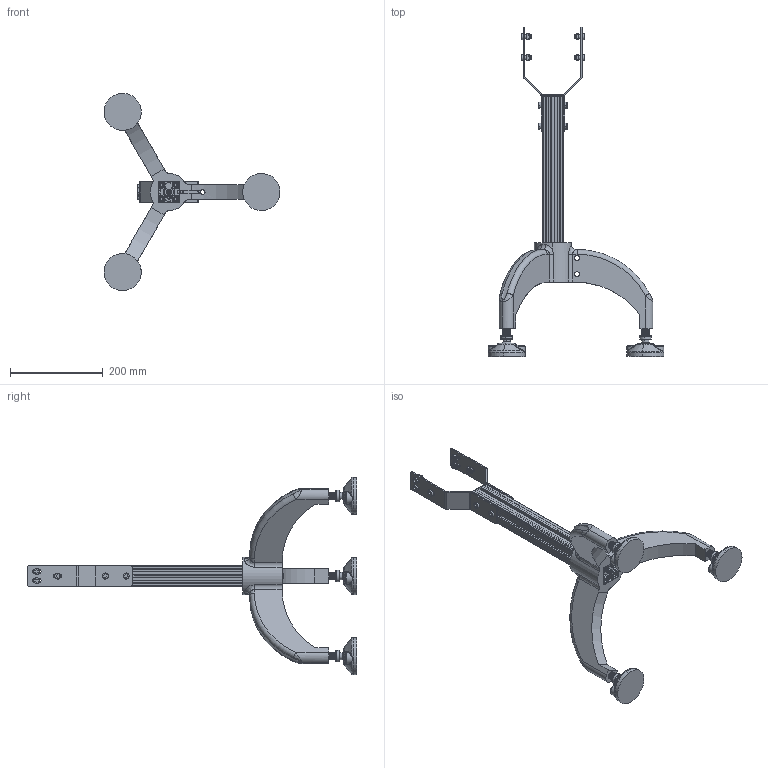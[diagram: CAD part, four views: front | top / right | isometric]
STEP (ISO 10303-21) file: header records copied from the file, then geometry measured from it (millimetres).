
FILE_DESCRIPTION (( 'STEP AP203' ), '1' );
FILE_NAME ('2000.450.KP.STEP', '2018-03-13T10:17:19', ( '' ), ( '' ), 'SwSTEP 2.0', 'SolidWorks 2016', '' );
FILE_SCHEMA (( 'CONFIG_CONTROL_DESIGN' ));
Length unit declared in the file: millimetre
Products named in the file (9): 084.408.001; 084.302.000 DADI ALUSIC 13x13-1_084.302.004; 2000.450.620L; 2000.450.KP; 084.402.004; 084.302.016; 084.301.000 VITI ALUSIC_084.301.002; 2000.325.KP.XXXX.PROFILO_Default<A macchina>; 084.201.012-1
Assembly tree (26 placements, depth 2):
  2000.450.KP
    2000.325.KP.XXXX.PROFILO_Default<A macchina>
    2000.450.620L  x2
    084.408.001
    084.402.004  x3
    084.201.012-1
    084.302.016  x2
    084.301.000 VITI ALUSIC_084.301.002  x10
    084.302.000 DADI ALUSIC 13x13-1_084.302.004  x6
Bounding box: 378.5 x 708 x 424.67 mm (x, y, z)
Volume: 2086546.4 mm3; surface area: 538045.4 mm2
Topology: 29 solids, 29 shells, 1709 faces, 3853 edges, 2221 vertices
Faces by surface type: cone 562, cylinder 551, plane 371, torus 113, bspline 108, sphere 4
Entity records: 25941 total; most frequent: CARTESIAN_POINT 7116, DIRECTION 3782, ORIENTED_EDGE 3556, EDGE_CURVE 1778, AXIS2_PLACEMENT_3D 1427, VERTEX_POINT 1061, LINE 928, VECTOR 928
